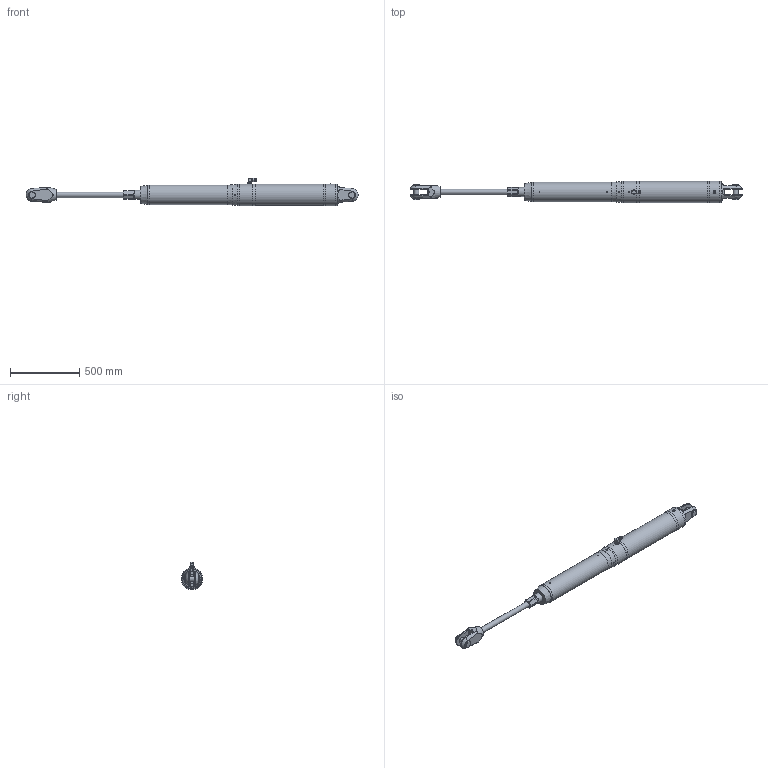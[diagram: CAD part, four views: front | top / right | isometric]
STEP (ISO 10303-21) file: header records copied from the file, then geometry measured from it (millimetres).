
FILE_DESCRIPTION(/* description */ (''),/* implementation_level */ '2;1');
FILE_NAME(/* name */ 'Q:\AA BRAND HYDRAULICS\HYDRAULICS FAMILY DIRECTORY\HYDRAULICS\CYLINDERS\MECHANICAL LOCK RAMS\ALUMINIUM - STAINLESS SINGLE ACTING (-0012 To -0150)\MSA-0115-S0475-NP-71\MSA-0115-S0475-NP-71 (Open).stp',/* time_stamp */ '2018-04-25T17:18:16+01:00',/* author */ ('Lorena'),/* organization */ (''),/* preprocessor_version */ 'ST-DEVELOPER v17',/* originating_system */ 'Autodesk Inventor 2018',/* authorisation */ '');
FILE_SCHEMA (('AUTOMOTIVE_DESIGN { 1 0 10303 214 3 1 1 }'));
Length unit declared in the file: millimetre
Products named in the file (1): MSA-0115-S0475-NP-71 (Open)
Bounding box: 2392.44 x 155.4 x 197.3 mm (x, y, z)
Volume: 27141703.2 mm3; surface area: 961681.3 mm2
Topology: 2 solids, 4 shells, 496 faces, 1293 edges, 842 vertices
Faces by surface type: plane 281, cone 126, cylinder 75, torus 6, sphere 4, bspline 4
Full cylindrical faces by diameter (mm): 4 x1, 4.134 x1, 4.2 x2, 5 x1, 7 x1, 8 x4, 9 x1, 9.9 x1, 10 x2, 11.1 x1, 18.9 x1, 19 x3, 19.11 x1, 19.9 x1, 20 x1, 20.9 x2, 22 x2, 24 x2, 27.8 x3, 30 x1, 38.1 x2, 39 x1, 47.625 x2, 65 x2, 66 x2, 69 x1, 140 x1, 152.4 x1, 155.4 x4
Entity records: 16724 total; most frequent: CARTESIAN_POINT 4160, ORIENTED_EDGE 2570, DIRECTION 2510, EDGE_CURVE 1285, AXIS2_PLACEMENT_3D 965, VERTEX_POINT 843, LINE 580, VECTOR 580
